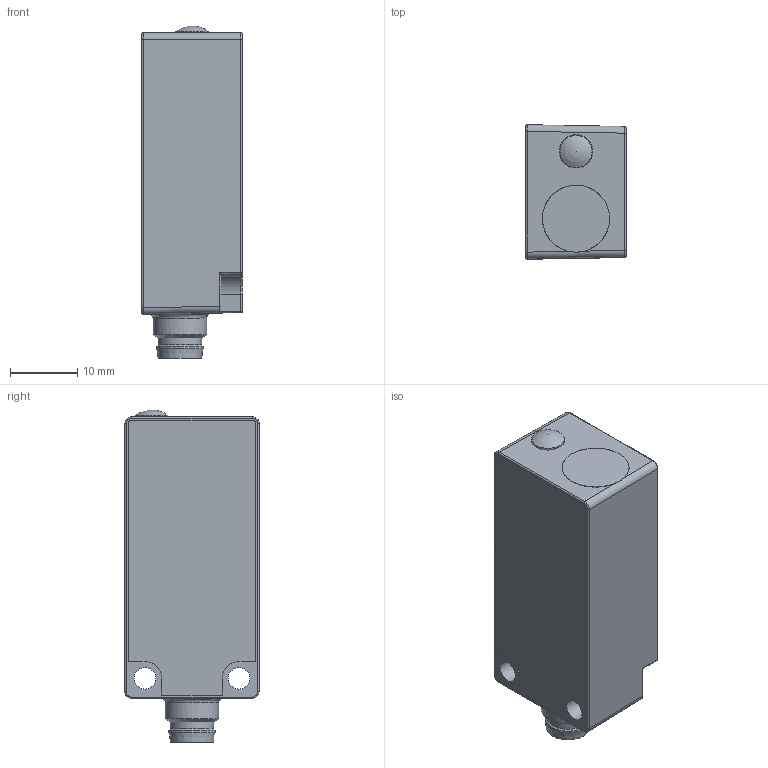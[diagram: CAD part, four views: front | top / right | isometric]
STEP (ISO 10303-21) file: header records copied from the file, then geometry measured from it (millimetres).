
FILE_DESCRIPTION( ( 'Unknown' ), '1' );
FILE_NAME( '//baumerholding.org/frauenfeld/bereich/BECH/Services/me_CAD/Solid Edge/Models/Dokumentationen/Ultraschall/UxDK 20/Vereinfachte Modelle/Neutralformate/UNDK_20_Button_D13_5.stp', 'Unknown', ( 'Unknown' ), ( 'Unknown' ), 'XStep 1.0', 'Unknown', ' ' );
FILE_SCHEMA( ( 'CONFIG_CONTROL_DESIGN' ) );
Length unit declared in the file: millimetre
Products named in the file (1): Stiftplatte10er
Bounding box: 15 x 19.99 x 49.5 mm (x, y, z)
Volume: 12117.6 mm3; surface area: 3969.7 mm2
Topology: 1 solids, 1 shells, 161 faces, 421 edges, 269 vertices
Faces by surface type: plane 85, cylinder 58, bspline 9, cone 4, sphere 3, torus 2
Full cylindrical faces by diameter (mm): 3.2 x2, 4.8 x1, 5.8 x1, 6.5 x1, 6.9 x1, 8 x1, 10 x1
Entity records: 5631 total; most frequent: CARTESIAN_POINT 1642, DIRECTION 848, ORIENTED_EDGE 796, EDGE_CURVE 398, AXIS2_PLACEMENT_3D 298, VERTEX_POINT 262, LINE 252, VECTOR 252
